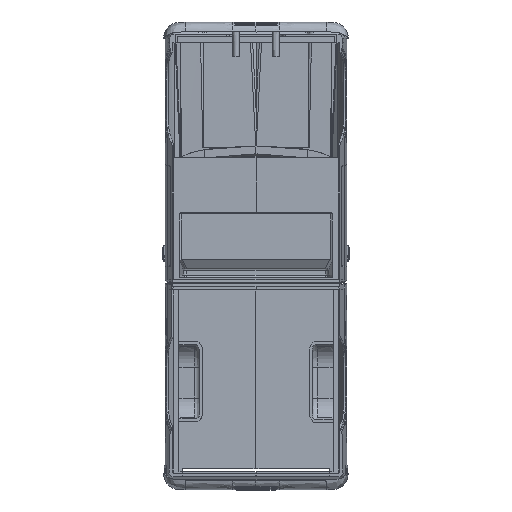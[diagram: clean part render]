
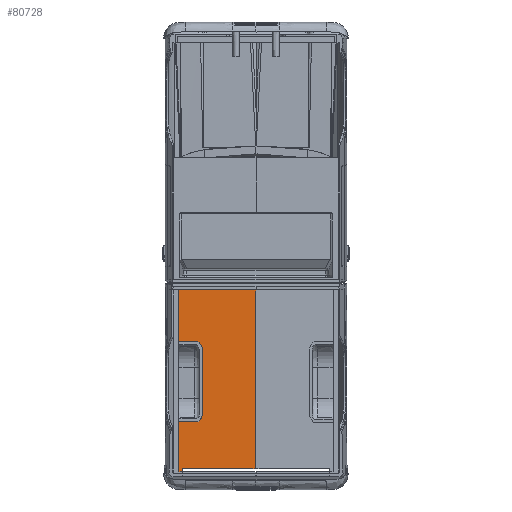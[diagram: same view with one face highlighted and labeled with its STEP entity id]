
A CAD part, front view. The second image highlights one B-rep face of the part: STEP entity #80728.
In plain terms, the highlighted planar face has unit normal (0, -1, 0).
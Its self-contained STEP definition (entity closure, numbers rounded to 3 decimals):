
#2616=PLANE('',#86101);
#5726=LINE('',#128813,#10982);
#5876=LINE('',#129597,#11132);
#5892=LINE('',#130365,#11148);
#5900=LINE('',#130379,#11156);
#5904=LINE('',#130386,#11160);
#5910=LINE('',#130673,#11166);
#5913=LINE('',#130744,#11169);
#5930=LINE('',#131277,#11186);
#5934=LINE('',#131301,#11190);
#5955=LINE('',#131709,#11211);
#5956=LINE('',#131711,#11212);
#5957=LINE('',#131712,#11213);
#10982=VECTOR('',#94126,10.);
#11132=VECTOR('',#94454,10.);
#11148=VECTOR('',#94506,10.);
#11156=VECTOR('',#94518,10.);
#11160=VECTOR('',#94524,10.);
#11166=VECTOR('',#94546,10.);
#11169=VECTOR('',#94555,10.);
#11186=VECTOR('',#94600,10.);
#11190=VECTOR('',#94604,10.);
#11211=VECTOR('',#94679,10.);
#11212=VECTOR('',#94682,10.);
#11213=VECTOR('',#94683,10.);
#17364=FACE_OUTER_BOUND('',#22435,.T.);
#22435=EDGE_LOOP('',(#59449,#59450,#59451,#59452,#59453,#59454,#59455,#59456,
#59457,#59458,#59459,#59460,#59461,#59462));
#29678=B_SPLINE_CURVE_WITH_KNOTS('',3,(#130643,#130644,#130645,#130646,
#130647,#130648,#130649,#130650,#130651,#130652),.UNSPECIFIED.,.F.,.F.,
(4,2,2,2,4),(-1.479,-1.206,-0.937,-0.579,
-0.391),.UNSPECIFIED.);
#29683=B_SPLINE_CURVE_WITH_KNOTS('',3,(#130716,#130717,#130718,#130719,
#130720,#130721,#130722,#130723),.UNSPECIFIED.,.F.,.F.,(4,2,2,4),(-1.723,
-1.283,-0.614,0.),.UNSPECIFIED.);
#34934=VERTEX_POINT('',#128810);
#34935=VERTEX_POINT('',#128812);
#35078=VERTEX_POINT('',#129593);
#35080=VERTEX_POINT('',#129596);
#35118=VERTEX_POINT('',#130363);
#35122=VERTEX_POINT('',#130377);
#35124=VERTEX_POINT('',#130384);
#35139=VERTEX_POINT('',#130641);
#35140=VERTEX_POINT('',#130642);
#35143=VERTEX_POINT('',#130672);
#35145=VERTEX_POINT('',#130715);
#35172=VERTEX_POINT('',#131276);
#35177=VERTEX_POINT('',#131298);
#35178=VERTEX_POINT('',#131300);
#43722=EDGE_CURVE('',#34934,#34935,#5726,.T.);
#43926=EDGE_CURVE('',#35078,#35080,#5876,.T.);
#43988=EDGE_CURVE('',#35118,#35078,#5892,.F.);
#43996=EDGE_CURVE('',#35122,#35118,#5900,.F.);
#44000=EDGE_CURVE('',#35122,#35124,#5904,.F.);
#44018=EDGE_CURVE('',#35139,#35140,#29678,.F.);
#44022=EDGE_CURVE('',#35140,#35143,#5910,.F.);
#44025=EDGE_CURVE('',#35143,#35145,#29683,.F.);
#44030=EDGE_CURVE('',#34935,#35124,#5913,.F.);
#44074=EDGE_CURVE('',#35080,#35172,#5930,.T.);
#44080=EDGE_CURVE('',#35177,#35178,#5934,.T.);
#44137=EDGE_CURVE('',#35178,#34934,#5955,.T.);
#44138=EDGE_CURVE('',#35177,#35145,#5956,.T.);
#44139=EDGE_CURVE('',#35172,#35139,#5957,.F.);
#59449=ORIENTED_EDGE('',*,*,#44138,.T.);
#59450=ORIENTED_EDGE('',*,*,#44025,.F.);
#59451=ORIENTED_EDGE('',*,*,#44022,.F.);
#59452=ORIENTED_EDGE('',*,*,#44018,.F.);
#59453=ORIENTED_EDGE('',*,*,#44139,.F.);
#59454=ORIENTED_EDGE('',*,*,#44074,.F.);
#59455=ORIENTED_EDGE('',*,*,#43926,.F.);
#59456=ORIENTED_EDGE('',*,*,#43988,.F.);
#59457=ORIENTED_EDGE('',*,*,#43996,.F.);
#59458=ORIENTED_EDGE('',*,*,#44000,.T.);
#59459=ORIENTED_EDGE('',*,*,#44030,.F.);
#59460=ORIENTED_EDGE('',*,*,#43722,.F.);
#59461=ORIENTED_EDGE('',*,*,#44137,.F.);
#59462=ORIENTED_EDGE('',*,*,#44080,.F.);
#80728=ADVANCED_FACE('',(#17364),#2616,.T.);
#86101=AXIS2_PLACEMENT_3D('',#131710,#94680,#94681);
#94126=DIRECTION('',(0.,0.,-1.));
#94454=DIRECTION('',(-1.,0.,0.));
#94506=DIRECTION('',(0.,0.,1.));
#94518=DIRECTION('',(1.,0.,0.));
#94524=DIRECTION('',(0.,0.,-1.));
#94546=DIRECTION('',(0.,0.,-1.));
#94555=DIRECTION('',(-1.,0.,0.));
#94600=DIRECTION('',(0.,0.,1.));
#94604=DIRECTION('',(0.,0.,1.));
#94679=DIRECTION('',(1.,0.,0.));
#94680=DIRECTION('center_axis',(0.,-1.,
0.));
#94681=DIRECTION('ref_axis',(0.,0.,-1.));
#94682=DIRECTION('',(1.,0.,0.));
#94683=DIRECTION('',(-1.,0.,0.));
#128810=CARTESIAN_POINT('',(0.02,50.433,-65.509));
#128812=CARTESIAN_POINT('',(0.02,50.433,-67.088));
#128813=CARTESIAN_POINT('',(0.02,50.433,-103.997));
#129593=CARTESIAN_POINT('',(-77.854,50.401,-257.819));
#129596=CARTESIAN_POINT('',(-81.477,50.399,-257.819));
#129597=CARTESIAN_POINT('',(-61.1,50.408,-257.819));
#130363=CARTESIAN_POINT('',(-77.854,50.401,-254.979));
#130365=CARTESIAN_POINT('',(-77.854,50.401,-204.31));
#130377=CARTESIAN_POINT('',(0.023,50.433,-254.979));
#130379=CARTESIAN_POINT('',(-44.445,50.415,-254.979));
#130384=CARTESIAN_POINT('',(0.023,50.433,-67.088));
#130386=CARTESIAN_POINT('',(0.023,50.433,-200.152));
#130641=CARTESIAN_POINT('',(-61.383,50.407,-205.235));
#130642=CARTESIAN_POINT('',(-56.573,50.409,-195.965));
#130643=CARTESIAN_POINT('Ctrl Pts',(-56.573,50.409,-195.965));
#130644=CARTESIAN_POINT('Ctrl Pts',(-56.573,50.409,-196.884));
#130645=CARTESIAN_POINT('Ctrl Pts',(-56.675,50.409,
-197.799));
#130646=CARTESIAN_POINT('Ctrl Pts',(-57.077,50.409,
-199.57));
#130647=CARTESIAN_POINT('Ctrl Pts',(-57.375,50.409,
-200.426));
#130648=CARTESIAN_POINT('Ctrl Pts',(-58.303,50.409,
-202.309));
#130649=CARTESIAN_POINT('Ctrl Pts',(-59.009,50.408,
-203.296));
#130650=CARTESIAN_POINT('Ctrl Pts',(-60.343,50.408,
-204.542));
#130651=CARTESIAN_POINT('Ctrl Pts',(-60.845,50.408,
-204.92));
#130652=CARTESIAN_POINT('Ctrl Pts',(-61.383,50.407,-205.235));
#130672=CARTESIAN_POINT('',(-56.573,50.409,-130.232));
#130673=CARTESIAN_POINT('',(-56.573,50.409,-152.631));
#130715=CARTESIAN_POINT('',(-61.915,50.407,-120.444));
#130716=CARTESIAN_POINT('Ctrl Pts',(-61.915,50.407,
-120.444));
#130717=CARTESIAN_POINT('Ctrl Pts',(-61.117,50.408,
-120.84));
#130718=CARTESIAN_POINT('Ctrl Pts',(-60.394,50.408,
-121.374));
#130719=CARTESIAN_POINT('Ctrl Pts',(-58.796,50.409,
-122.963));
#130720=CARTESIAN_POINT('Ctrl Pts',(-58.049,50.409,-124.129));
#130721=CARTESIAN_POINT('Ctrl Pts',(-57.041,50.409,
-126.544));
#130722=CARTESIAN_POINT('Ctrl Pts',(-56.573,50.409,-128.185));
#130723=CARTESIAN_POINT('Ctrl Pts',(-56.573,50.409,-130.232));
#130744=CARTESIAN_POINT('',(-20.351,50.425,-67.088));
#131276=CARTESIAN_POINT('',(-81.477,50.399,-205.235));
#131277=CARTESIAN_POINT('',(-81.477,50.399,-200.152));
#131298=CARTESIAN_POINT('',(-81.477,50.399,-120.444));
#131300=CARTESIAN_POINT('',(-81.477,50.399,-65.509));
#131301=CARTESIAN_POINT('',(-81.477,50.399,-200.152));
#131709=CARTESIAN_POINT('',(-61.101,50.408,-65.509));
#131710=CARTESIAN_POINT('Origin',(-40.725,50.416,-142.485));
#131711=CARTESIAN_POINT('',(-61.117,50.408,-120.444));
#131712=CARTESIAN_POINT('',(-61.117,50.408,-205.235));
